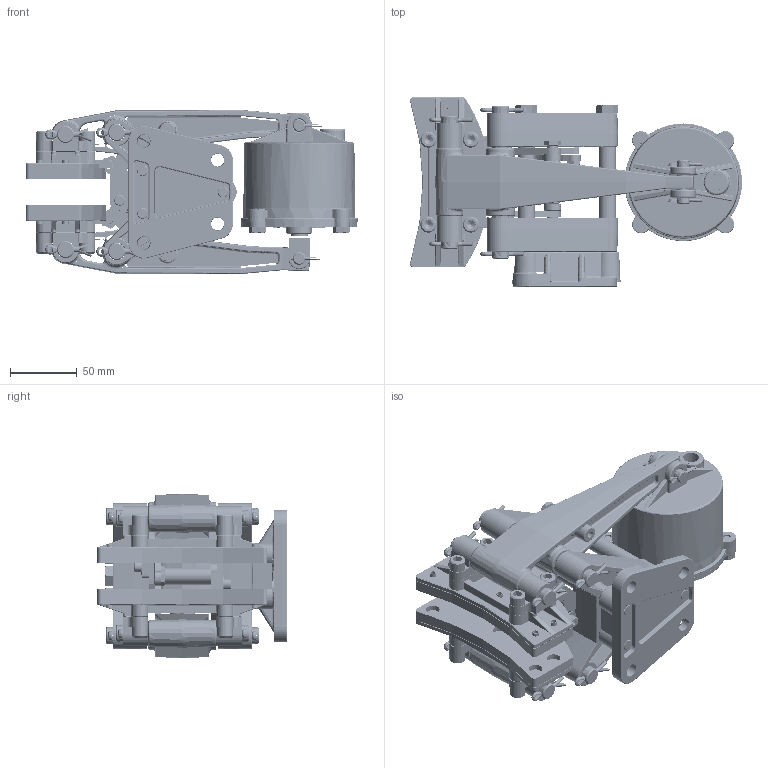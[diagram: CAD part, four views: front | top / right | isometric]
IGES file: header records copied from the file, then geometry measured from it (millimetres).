
Start section: SolidWorks IGES file using analytic representation for surfaces
Global section: file name: N:\3.Product\5000\models for website\5019-A.IGS; native system: SolidWorks 2015; preprocessor: SolidWorks 2015; author: borica; date: 160503.122648; units: inch
Bounding box: 248.03 x 141.52 x 122.69 mm (x, y, z)
Surface area: 280653 mm2 (no closed solid volume)
Topology: 0 solids, 0 shells, 2410 faces, 31461 edges, 31411 vertices
Faces by surface type: bspline 1392, revolution 1018
